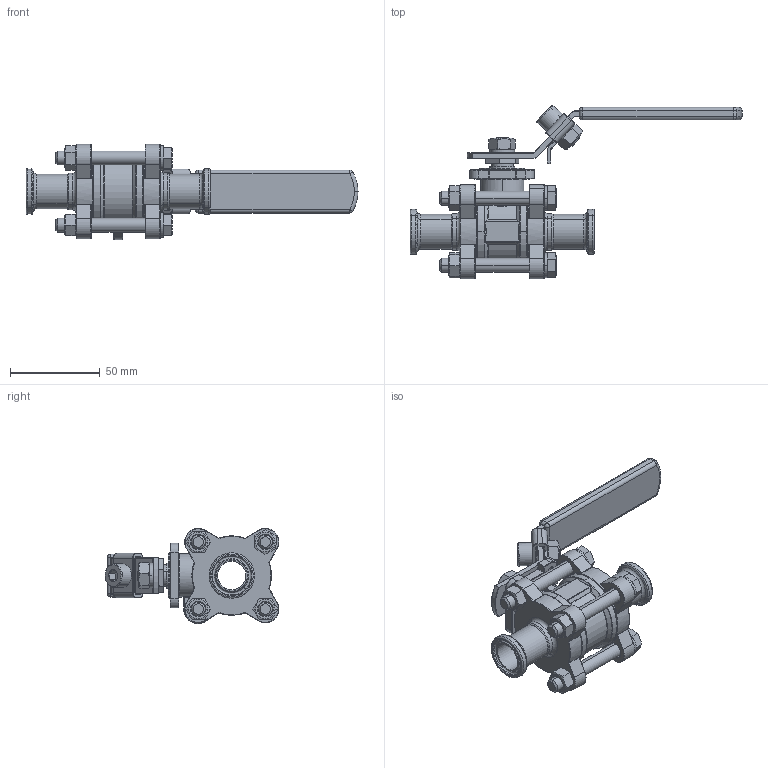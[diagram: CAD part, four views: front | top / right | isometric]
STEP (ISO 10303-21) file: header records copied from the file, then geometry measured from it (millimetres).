
FILE_DESCRIPTION (( 'STEP AP203' ), '1' );
FILE_NAME ('BAV-C-0.75.STEP', '2019-06-17T05:37:19', ( '' ), ( '' ), 'SwSTEP 2.0', 'SolidWorks 2014', '' );
FILE_SCHEMA (( 'CONFIG_CONTROL_DESIGN' ));
Length unit declared in the file: millimetre
Products named in the file (20): 2WAY-SEAT-0.75; 2WAY-BOLT WASHERS-0.5-.75; 2WAY-THRUST WASHER-0.5-.75; 2WAY-BOLT-0.75; 2WAY-HANDLE-0.5-.75; 2WAY-GASKET-0.75; BAV-C-0.75; 2WAY-HANDLE NUT-0.5-.75; 2WAY-CAP-C-0.75; 2WAY-GLAND-0.5-.75; 2WAY-STEM PACKINGS-0.5-.75; 2WAY-HANDLE-0.5-.75-3; 2WAY-HANDLE-0.5-.75-2; 2WAY-HANDLE-0.5-.75-3-1; 2WAY-HANDLE WASHERS-C-0.5; 2WAY-STEM-0.75; 2WAY-BODY-0.75; 2WAY-BOLT NUT-0.5-.75; 2WAY-BALL-0.75; 2WAY-HANDLE-0.5-.75-1
Assembly tree (31 placements, depth 2):
  BAV-C-0.75
    2WAY-BODY-0.75
    2WAY-BALL-0.75
    2WAY-SEAT-0.75  x2
    2WAY-STEM-0.75
    2WAY-THRUST WASHER-0.5-.75
    2WAY-STEM PACKINGS-0.5-.75
    2WAY-GLAND-0.5-.75
    2WAY-HANDLE NUT-0.5-.75
    2WAY-HANDLE WASHERS-C-0.5
    2WAY-HANDLE-0.5-.75
    2WAY-HANDLE-0.5-.75-1
    2WAY-HANDLE-0.5-.75-2
    2WAY-HANDLE-0.5-.75-3
    2WAY-HANDLE-0.5-.75-3-1
    2WAY-GASKET-0.75  x2
    2WAY-CAP-C-0.75  x2
    2WAY-BOLT NUT-0.5-.75  x4
    2WAY-BOLT WASHERS-0.5-.75  x4
    2WAY-BOLT-0.75  x4
Bounding box: 185.43 x 97.12 x 53.18 mm (x, y, z)
Volume: 124710.3 mm3; surface area: 82139.8 mm2
Topology: 31 solids, 31 shells, 1148 faces, 2617 edges, 1515 vertices
Faces by surface type: cylinder 396, torus 246, plane 240, cone 133, bspline 86, sphere 47
Entity records: 28137 total; most frequent: CARTESIAN_POINT 6739, DIRECTION 4317, ORIENTED_EDGE 3794, EDGE_CURVE 1897, AXIS2_PLACEMENT_3D 1851, VERTEX_POINT 1099, CIRCLE 1041, EDGE_LOOP 912
